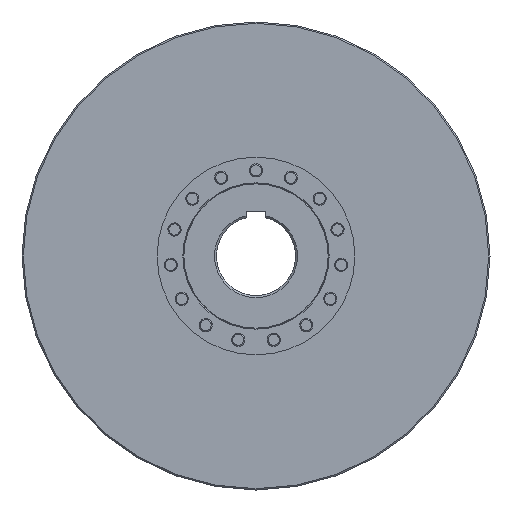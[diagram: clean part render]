
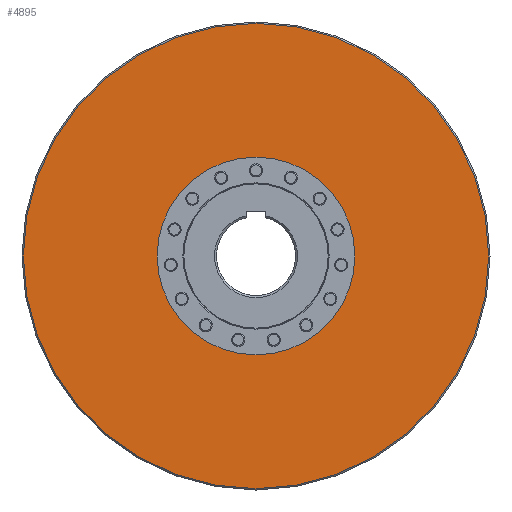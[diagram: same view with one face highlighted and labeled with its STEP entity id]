
A CAD part, left-side view. The second image highlights one B-rep face of the part: STEP entity #4895.
In plain terms, the highlighted planar face has unit normal (-1, 0, 0).
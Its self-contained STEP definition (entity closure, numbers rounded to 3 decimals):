
#723=FACE_BOUND('',#1346,.T.);
#979=FACE_OUTER_BOUND('',#1345,.T.);
#1345=EDGE_LOOP('',(#3223));
#1346=EDGE_LOOP('',(#3224));
#1967=CIRCLE('',#5282,353.);
#1968=CIRCLE('',#5283,150.);
#2217=VERTEX_POINT('',#7341);
#2218=VERTEX_POINT('',#7343);
#2665=EDGE_CURVE('',#2217,#2217,#1967,.T.);
#2666=EDGE_CURVE('',#2218,#2218,#1968,.T.);
#3223=ORIENTED_EDGE('',*,*,#2665,.F.);
#3224=ORIENTED_EDGE('',*,*,#2666,.F.);
#4339=PLANE('',#5281);
#4895=ADVANCED_FACE('',(#979,#723),#4339,.F.);
#5281=AXIS2_PLACEMENT_3D('',#7340,#5899,#5900);
#5282=AXIS2_PLACEMENT_3D('',#7342,#5901,#5902);
#5283=AXIS2_PLACEMENT_3D('',#7344,#5903,#5904);
#5899=DIRECTION('center_axis',(1.,0.,0.));
#5900=DIRECTION('ref_axis',(0.,1.,0.));
#5901=DIRECTION('center_axis',(1.,0.,0.));
#5902=DIRECTION('ref_axis',(0.,-1.,0.));
#5903=DIRECTION('center_axis',(-1.,0.,0.));
#5904=DIRECTION('ref_axis',(0.,-1.,0.));
#7340=CARTESIAN_POINT('Origin',(-103.75,640.121,0.));
#7341=CARTESIAN_POINT('',(-103.75,353.,0.));
#7342=CARTESIAN_POINT('Origin',(-103.75,0.,
0.));
#7343=CARTESIAN_POINT('',(-103.75,150.,0.));
#7344=CARTESIAN_POINT('Origin',(-103.75,0.,0.));
